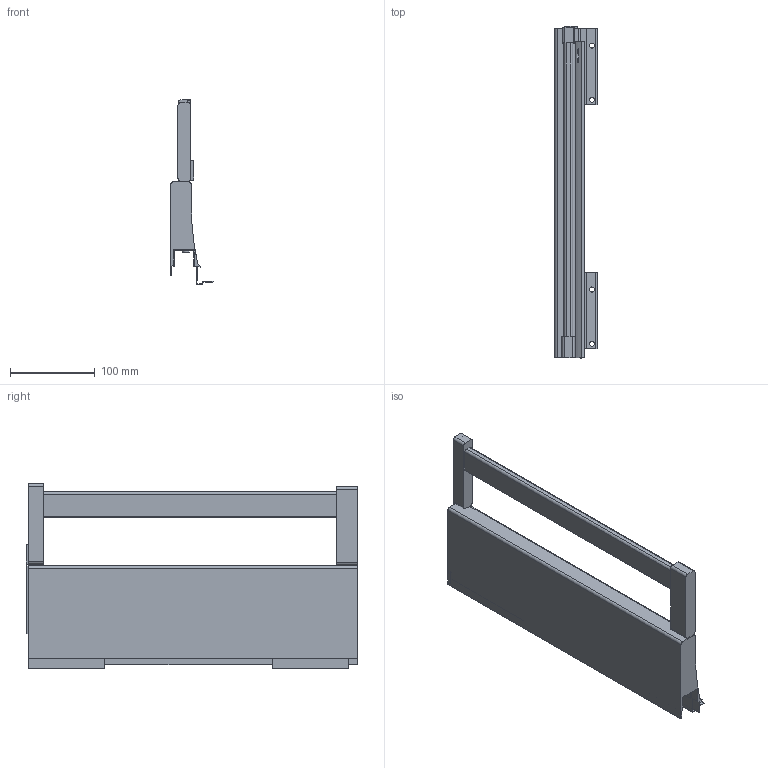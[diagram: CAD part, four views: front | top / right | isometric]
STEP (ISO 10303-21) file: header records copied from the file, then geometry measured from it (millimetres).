
FILE_DESCRIPTION (( 'STEP AP214' ), '1' );
FILE_NAME ('_XP Agantis Dekorseite H127 NL400 LI Rechteckreling.step', '2010-07-08T06:24:25', ( 'grass' ), ( '' ), 'SwSTEP 2.0', 'SolidWorks 2010', '' );
FILE_SCHEMA (( 'AUTOMOTIVE_DESIGN' ));
Length unit declared in the file: millimetre
Products named in the file (1): _XP Agantis Dekorseite H127 NL400 LI Rechteckreling
Bounding box: 50.01 x 392.45 x 219 mm (x, y, z)
Volume: 1009810.2 mm3; surface area: 197089 mm2
Topology: 2 solids, 2 shells, 155 faces, 438 edges, 288 vertices
Faces by surface type: plane 118, cylinder 37
Entity records: 5119 total; most frequent: CARTESIAN_POINT 969, ORIENTED_EDGE 876, DIRECTION 821, EDGE_CURVE 438, LINE 363, VECTOR 363, VERTEX_POINT 288, AXIS2_PLACEMENT_3D 229
